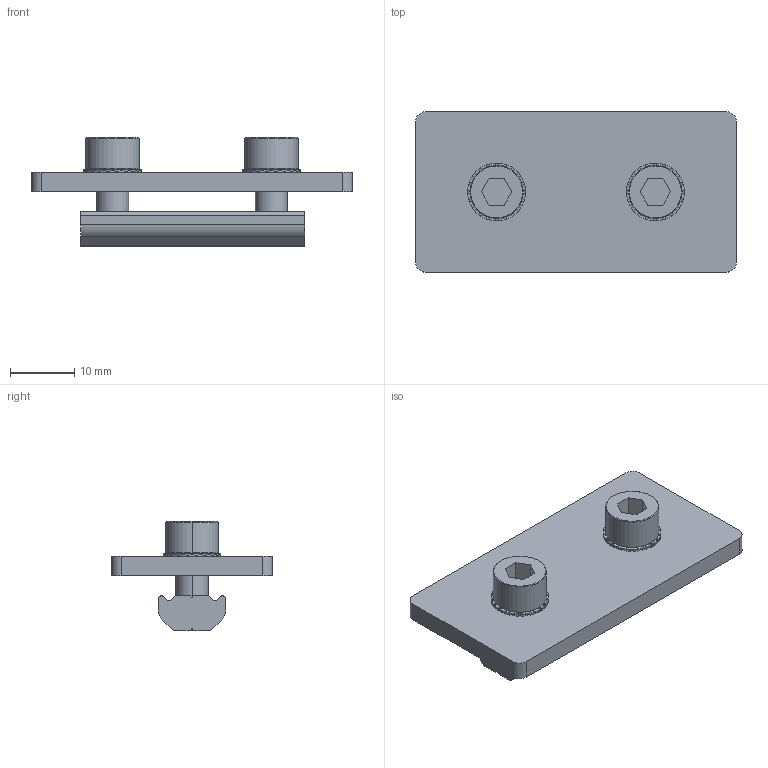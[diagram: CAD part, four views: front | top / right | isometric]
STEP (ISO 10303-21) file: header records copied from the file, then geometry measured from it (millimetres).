
FILE_DESCRIPTION (( 'STEP AP214' ), '1' );
FILE_NAME ('SFP-S2550.STEP', '2019-10-30T07:27:50', ( '微软用户' ), ( '微软中国' ), 'SwSTEP 2.0', 'SolidWorks 2016', '' );
FILE_SCHEMA (( 'AUTOMOTIVE_DESIGN' ));
Length unit declared in the file: millimetre
Products named in the file (5): PTN-M5P25; PTS-M5; PTC-M5L12; SFP-S2550
Assembly tree (6 placements, depth 2):
  SFP-S2550
    SFP-S2550
    PTC-M5L12  x2
    PTS-M5  x2
    PTN-M5P25
Bounding box: 50 x 25 x 17 mm (x, y, z)
Volume: 6052.7 mm3; surface area: 5377.6 mm2
Topology: 6 solids, 6 shells, 432 faces, 1260 edges, 836 vertices
Faces by surface type: plane 374, cylinder 46, cone 12
Entity records: 8622 total; most frequent: CARTESIAN_POINT 1657, ORIENTED_EDGE 1452, DIRECTION 1442, EDGE_CURVE 726, AXIS2_PLACEMENT_3D 491, VERTEX_POINT 482, VECTOR 460, LINE 460
